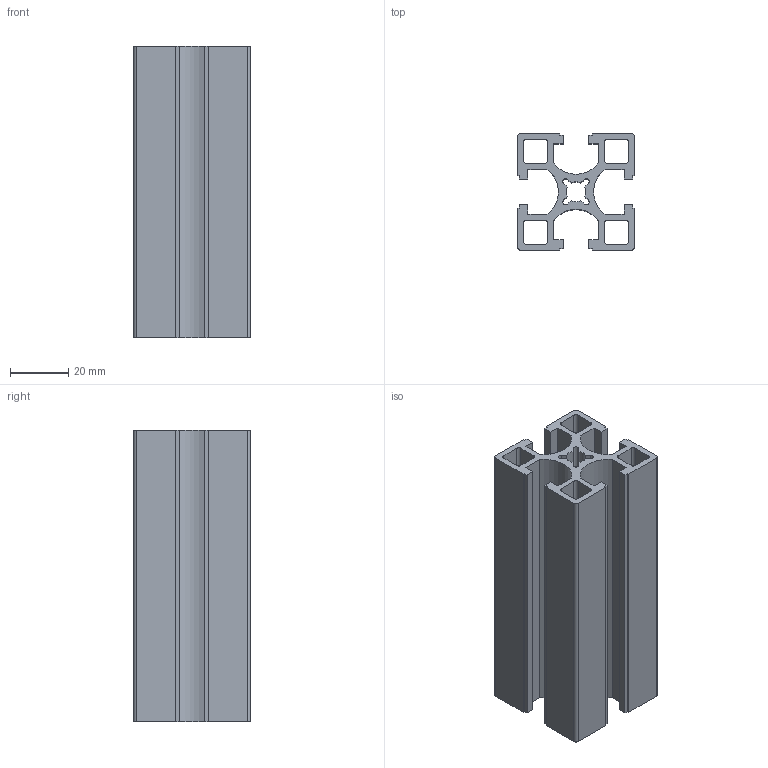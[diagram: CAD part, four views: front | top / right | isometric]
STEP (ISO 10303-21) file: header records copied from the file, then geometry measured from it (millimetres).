
FILE_DESCRIPTION(/* description */ (''),/* implementation_level */ '2;1');
FILE_NAME(/* name */ 'C:\Users\Owner\Documents\硯聰\Inv材料庫-自訂\AM\AM8\AM8-4040_100L.stp',/* time_stamp */ '2019-05-02T09:03:47+08:00',/* author */ ('Owner'),/* organization */ (''),/* preprocessor_version */ 'ST-DEVELOPER v16.1',/* originating_system */ 'Autodesk Inventor 2016',/* authorisation */ '');
FILE_SCHEMA (('AUTOMOTIVE_DESIGN { 1 0 10303 214 3 1 1 }'));
Length unit declared in the file: millimetre
Products named in the file (1): AM8-4040_100L
Bounding box: 40 x 40 x 100 mm (x, y, z)
Volume: 56997.6 mm3; surface area: 47949.3 mm2
Topology: 1 solids, 1 shells, 106 faces, 312 edges, 208 vertices
Faces by surface type: plane 74, cylinder 32
Entity records: 3564 total; most frequent: CARTESIAN_POINT 627, ORIENTED_EDGE 624, DIRECTION 590, EDGE_CURVE 312, LINE 248, VECTOR 248, VERTEX_POINT 208, AXIS2_PLACEMENT_3D 171
